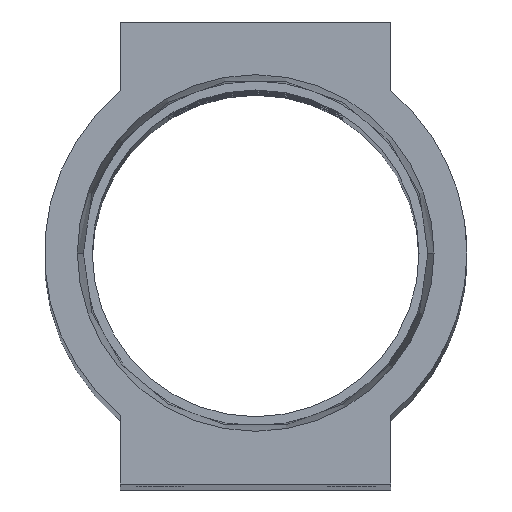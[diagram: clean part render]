
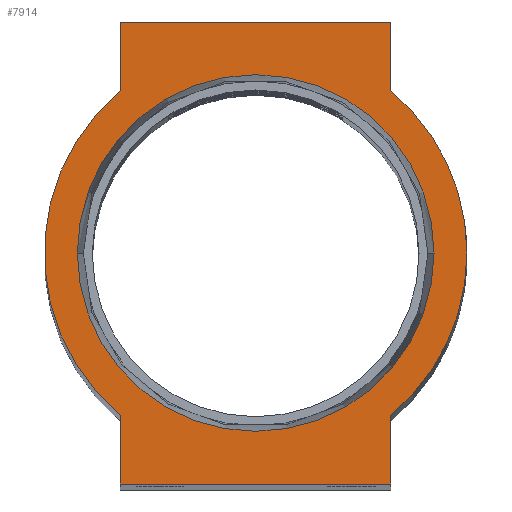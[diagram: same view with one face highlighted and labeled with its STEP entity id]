
A CAD part, top view. The second image highlights one B-rep face of the part: STEP entity #7914.
In plain terms, the highlighted planar face has unit normal (0, 0, 1).
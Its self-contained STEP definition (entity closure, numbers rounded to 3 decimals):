
#206 = VECTOR ( 'NONE', #9337, 1000. ) ;
#229 = ORIENTED_EDGE ( 'NONE', *, *, #11550, .T. ) ;
#479 = EDGE_CURVE ( 'NONE', #3617, #3967, #2777, .T. ) ;
#782 = VECTOR ( 'NONE', #12009, 1000. ) ;
#784 = CARTESIAN_POINT ( 'NONE',  ( 12., -20.5, 0. ) ) ;
#834 = DIRECTION ( 'NONE',  ( 0., 0., 1. ) ) ;
#881 = DIRECTION ( 'NONE',  ( 1., 0., 0. ) ) ;
#1021 = DIRECTION ( 'NONE',  ( 1., 0., 0. ) ) ;
#1035 = EDGE_CURVE ( 'NONE', #10211, #6740, #11285, .T. ) ;
#1291 = ORIENTED_EDGE ( 'NONE', *, *, #8717, .T. ) ;
#1364 = AXIS2_PLACEMENT_3D ( 'NONE', #5195, #8229, #1021 ) ;
#1433 = PLANE ( 'NONE',  #5371 ) ;
#1550 = VERTEX_POINT ( 'NONE', #11451 ) ;
#1573 = CIRCLE ( 'NONE', #1364, 18.75 ) ;
#1923 = DIRECTION ( 'NONE',  ( 0., -1., 0. ) ) ;
#2142 = CARTESIAN_POINT ( 'NONE',  ( 0., 0., 0. ) ) ;
#2212 = DIRECTION ( 'NONE',  ( 0., 0., 1. ) ) ;
#2274 = ORIENTED_EDGE ( 'NONE', *, *, #1035, .T. ) ;
#2397 = VERTEX_POINT ( 'NONE', #12140 ) ;
#2777 = LINE ( 'NONE', #784, #10028 ) ;
#2856 = EDGE_CURVE ( 'NONE', #8715, #10211, #4292, .T. ) ;
#2867 = CARTESIAN_POINT ( 'NONE',  ( -12., 20.5, 0. ) ) ;
#3003 = CARTESIAN_POINT ( 'NONE',  ( 12., 14.407, 0. ) ) ;
#3052 = CARTESIAN_POINT ( 'NONE',  ( 0., 0., 0. ) ) ;
#3420 = CARTESIAN_POINT ( 'NONE',  ( 0., 0., 0. ) ) ;
#3460 = CARTESIAN_POINT ( 'NONE',  ( 12., 20.5, 0. ) ) ;
#3487 = CARTESIAN_POINT ( 'NONE',  ( 0., 0., 0. ) ) ;
#3617 = VERTEX_POINT ( 'NONE', #8206 ) ;
#3661 = CARTESIAN_POINT ( 'NONE',  ( -12., 20.5, 0. ) ) ;
#3923 = VECTOR ( 'NONE', #10531, 1000. ) ;
#3967 = VERTEX_POINT ( 'NONE', #10023 ) ;
#4228 = EDGE_LOOP ( 'NONE', ( #9843, #8686 ) ) ;
#4292 = LINE ( 'NONE', #5167, #3923 ) ;
#4304 = EDGE_CURVE ( 'NONE', #3967, #1550, #1573, .T. ) ;
#4361 = EDGE_CURVE ( 'NONE', #5617, #7081, #6947, .T. ) ;
#4777 = CIRCLE ( 'NONE', #12357, 15.827 ) ;
#5057 = CIRCLE ( 'NONE', #8961, 15.827 ) ;
#5140 = EDGE_LOOP ( 'NONE', ( #9175, #2274, #11068, #10993, #1291, #229, #11792, #10088, #11008 ) ) ;
#5167 = CARTESIAN_POINT ( 'NONE',  ( 12., 20.5, 0. ) ) ;
#5195 = CARTESIAN_POINT ( 'NONE',  ( 0., 0., 0. ) ) ;
#5198 = EDGE_CURVE ( 'NONE', #6740, #5617, #7039, .T. ) ;
#5247 = VECTOR ( 'NONE', #1923, 1000. ) ;
#5327 = LINE ( 'NONE', #9196, #206 ) ;
#5371 = AXIS2_PLACEMENT_3D ( 'NONE', #3420, #5473, #9623 ) ;
#5473 = DIRECTION ( 'NONE',  ( 0., 0., 1. ) ) ;
#5478 = EDGE_CURVE ( 'NONE', #1550, #8715, #13242, .T. ) ;
#5617 = VERTEX_POINT ( 'NONE', #7766 ) ;
#5619 = CARTESIAN_POINT ( 'NONE',  ( -12., -14.407, 0. ) ) ;
#5993 = DIRECTION ( 'NONE',  ( -1., 0., 0. ) ) ;
#6029 = EDGE_CURVE ( 'NONE', #9805, #2397, #5057, .T. ) ;
#6740 = VERTEX_POINT ( 'NONE', #3661 ) ;
#6947 = CIRCLE ( 'NONE', #8025, 18.75 ) ;
#7039 = LINE ( 'NONE', #10115, #5247 ) ;
#7044 = DIRECTION ( 'NONE',  ( 1., 0., 0. ) ) ;
#7081 = VERTEX_POINT ( 'NONE', #5619 ) ;
#7419 = AXIS2_PLACEMENT_3D ( 'NONE', #3487, #2212, #7627 ) ;
#7468 = VERTEX_POINT ( 'NONE', #7966 ) ;
#7627 = DIRECTION ( 'NONE',  ( 1., 0., 0. ) ) ;
#7766 = CARTESIAN_POINT ( 'NONE',  ( -12., 14.407, 0. ) ) ;
#7914 = ADVANCED_FACE ( 'NONE', ( #12926, #9682 ), #1433, .T. ) ;
#7966 = CARTESIAN_POINT ( 'NONE',  ( -12., -20.5, 0. ) ) ;
#8025 = AXIS2_PLACEMENT_3D ( 'NONE', #2142, #10140, #881 ) ;
#8050 = CARTESIAN_POINT ( 'NONE',  ( 0., 0., 0. ) ) ;
#8133 = DIRECTION ( 'NONE',  ( 0., 0., 1. ) ) ;
#8206 = CARTESIAN_POINT ( 'NONE',  ( 12., -20.5, 0. ) ) ;
#8229 = DIRECTION ( 'NONE',  ( 0., 0., 1. ) ) ;
#8580 = CARTESIAN_POINT ( 'NONE',  ( -15.827, 0., 0. ) ) ;
#8686 = ORIENTED_EDGE ( 'NONE', *, *, #6029, .F. ) ;
#8715 = VERTEX_POINT ( 'NONE', #3003 ) ;
#8717 = EDGE_CURVE ( 'NONE', #7081, #7468, #5327, .T. ) ;
#8881 = LINE ( 'NONE', #13012, #782 ) ;
#8961 = AXIS2_PLACEMENT_3D ( 'NONE', #3052, #8133, #7044 ) ;
#9175 = ORIENTED_EDGE ( 'NONE', *, *, #2856, .T. ) ;
#9196 = CARTESIAN_POINT ( 'NONE',  ( -12., -20.5, 0. ) ) ;
#9287 = DIRECTION ( 'NONE',  ( 1., 0., 0. ) ) ;
#9337 = DIRECTION ( 'NONE',  ( 0., -1., 0. ) ) ;
#9623 = DIRECTION ( 'NONE',  ( 1., 0., 0. ) ) ;
#9682 = FACE_OUTER_BOUND ( 'NONE', #5140, .T. ) ;
#9805 = VERTEX_POINT ( 'NONE', #8580 ) ;
#9843 = ORIENTED_EDGE ( 'NONE', *, *, #10738, .F. ) ;
#10023 = CARTESIAN_POINT ( 'NONE',  ( 12., -14.407, 0. ) ) ;
#10028 = VECTOR ( 'NONE', #11128, 1000. ) ;
#10088 = ORIENTED_EDGE ( 'NONE', *, *, #4304, .T. ) ;
#10115 = CARTESIAN_POINT ( 'NONE',  ( -12., 20.5, 0. ) ) ;
#10140 = DIRECTION ( 'NONE',  ( 0., 0., 1. ) ) ;
#10211 = VERTEX_POINT ( 'NONE', #3460 ) ;
#10249 = VECTOR ( 'NONE', #5993, 1000. ) ;
#10531 = DIRECTION ( 'NONE',  ( 0., 1., 0. ) ) ;
#10738 = EDGE_CURVE ( 'NONE', #2397, #9805, #4777, .T. ) ;
#10993 = ORIENTED_EDGE ( 'NONE', *, *, #4361, .T. ) ;
#11008 = ORIENTED_EDGE ( 'NONE', *, *, #5478, .T. ) ;
#11068 = ORIENTED_EDGE ( 'NONE', *, *, #5198, .T. ) ;
#11128 = DIRECTION ( 'NONE',  ( 0., 1., 0. ) ) ;
#11285 = LINE ( 'NONE', #2867, #10249 ) ;
#11451 = CARTESIAN_POINT ( 'NONE',  ( 18.75, 0., 0. ) ) ;
#11550 = EDGE_CURVE ( 'NONE', #7468, #3617, #8881, .T. ) ;
#11792 = ORIENTED_EDGE ( 'NONE', *, *, #479, .T. ) ;
#12009 = DIRECTION ( 'NONE',  ( 1., 0., 0. ) ) ;
#12140 = CARTESIAN_POINT ( 'NONE',  ( 15.827, 0., 0. ) ) ;
#12357 = AXIS2_PLACEMENT_3D ( 'NONE', #8050, #834, #9287 ) ;
#12926 = FACE_BOUND ( 'NONE', #4228, .T. ) ;
#13012 = CARTESIAN_POINT ( 'NONE',  ( -12., -20.5, 0. ) ) ;
#13242 = CIRCLE ( 'NONE', #7419, 18.75 ) ;
